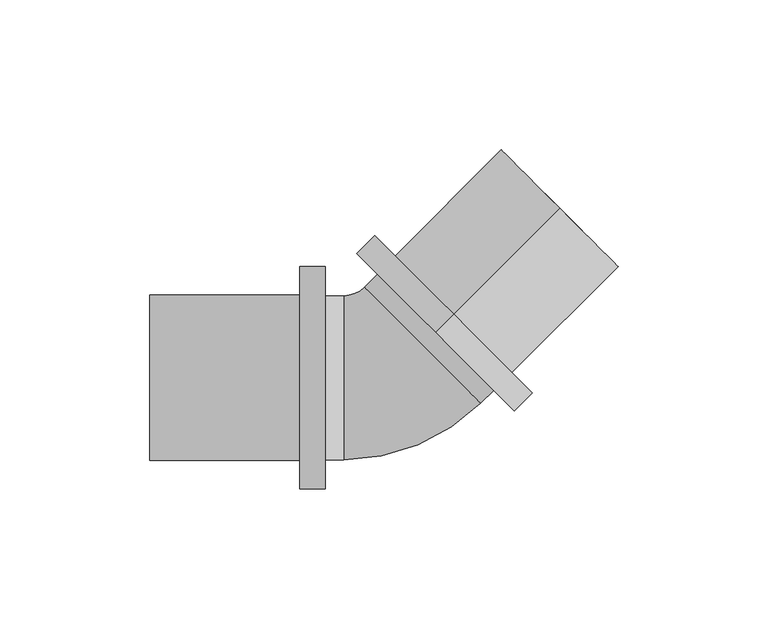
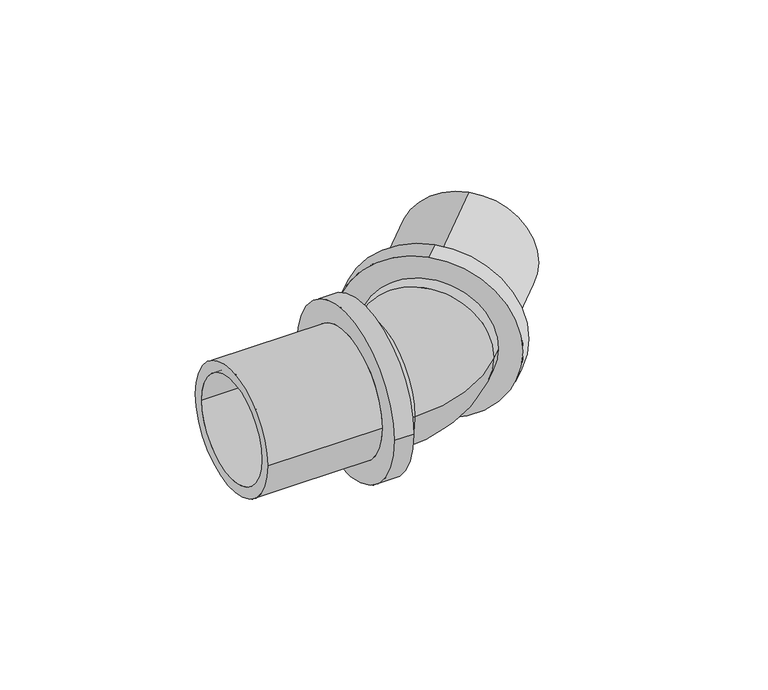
"""IFC4 building model written with IfcOpenShell, lengths in millimetres: pipe fitting geometry, RAUTITAN_Corner_RX+ stabil : RTI RX+ stabil C DE."""

from ifc_helpers import new_model, si_unit, point, frame, origin, place, context, project, spatial, polyline, circle_curve, ellipse_curve, trimmed, source, transform, mapped, element, save
from ifc_brep_helpers import plane_surface, cylinder_surface, revolved_surface, advanced_brep


def pipe_fitting_b53712a9(model_context):
    return source(origin(), model_context, "Body", "AdvancedBrep", [
        advanced_brep(
        [(-21.5, 27.35, 0.0), (-21.5, -27.35, 0.0), (-21.5, 22.75, 0.0), (-21.5, -22.75, 0.0), (-15.4708766, -22.75, 0.0), (-15.4708766, 0.0, -22.75), (-15.4708766, 22.75, 0.0), (-15.4708766, 0.0, 22.75), (-15.4708766, -27.35, 0.0), (-15.4708766, 27.35, 0.0), (34.5421663, -4.1365747, 0.0), (-4.1365747, 34.5421663, 0.0), (31.2894751, -0.8838835, 0.0), (-0.8838835, 31.2894751, 0.0), (-5.1471175, 27.026241, 0.0), (10.9395617, 10.9395617, -22.75), (27.026241, -5.1471175, 0.0), (10.9395617, 10.9395617, 22.75), (-8.3998087, 30.2789322, 0.0), (30.2789322, -8.3998087, 0.0)],
        [
            (0, 1, circle_curve(frame((-21.5, 0.0, 0.0), z_axis=(-1.0, 0.0, 0.0), x_axis=(0.0, -1.0, 0.0)), 27.35)),
            (1, 0, circle_curve(frame((-21.5, 0.0, 0.0), z_axis=(-1.0, 0.0, 0.0), x_axis=(0.0, -1.0, 0.0)), 27.35)),
            (2, 3, circle_curve(frame((-21.5, 0.0, 0.0), z_axis=(1.0, 0.0, 0.0), x_axis=(0.0, -1.0, 0.0)), 22.75)),
            (3, 2, circle_curve(frame((-21.5, 0.0, 0.0), z_axis=(1.0, 0.0, 0.0), x_axis=(0.0, -1.0, 0.0)), 22.75)),
            (3, 4),
            (4, 5, circle_curve(frame((-15.4708766, 0.0, 0.0), z_axis=(1.0, 0.0, 0.0), x_axis=(0.0, -1.0, 0.0)), 22.75)),
            (5, 6, circle_curve(frame((-15.4708766, 0.0, 0.0), z_axis=(1.0, 0.0, 0.0), x_axis=(0.0, -1.0, 0.0)), 22.75)),
            (6, 2),
            (6, 7, circle_curve(frame((-15.4708766, 0.0, 0.0), z_axis=(1.0, 0.0, 0.0), x_axis=(0.0, -1.0, 0.0)), 22.75)),
            (7, 4, circle_curve(frame((-15.4708766, 0.0, 0.0), z_axis=(1.0, 0.0, 0.0), x_axis=(0.0, -1.0, 0.0)), 22.75)),
            (1, 8),
            (8, 9, circle_curve(frame((-15.4708766, 0.0, 0.0), z_axis=(-1.0, 0.0, 0.0), x_axis=(0.0, -1.0, 0.0)), 27.35)),
            (9, 0),
            (9, 8, circle_curve(frame((-15.4708766, 0.0, 0.0), z_axis=(-1.0, 0.0, 0.0), x_axis=(0.0, -1.0, 0.0)), 27.35)),
            (10, 11, circle_curve(frame((15.2027958, 15.2027958, 0.0), z_axis=(0.7071067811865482, 0.7071067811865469, 0.0), x_axis=(-0.7071067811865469, 0.7071067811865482, 0.0)), 27.35)),
            (11, 10, circle_curve(frame((15.2027958, 15.2027958, 0.0), z_axis=(0.7071067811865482, 0.7071067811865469, 0.0), x_axis=(-0.7071067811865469, 0.7071067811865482, 0.0)), 27.35)),
            (12, 13, circle_curve(frame((15.2027958, 15.2027958, 0.0), z_axis=(-0.7071067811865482, -0.7071067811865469, 0.0), x_axis=(-0.7071067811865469, 0.7071067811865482, 0.0)), 22.75)),
            (13, 12, circle_curve(frame((15.2027958, 15.2027958, 0.0), z_axis=(-0.7071067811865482, -0.7071067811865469, 0.0), x_axis=(-0.7071067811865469, 0.7071067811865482, 0.0)), 22.75)),
            (13, 14),
            (14, 15, circle_curve(frame((10.9395617, 10.9395617, 0.0), z_axis=(-0.7071067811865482, -0.7071067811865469, 0.0), x_axis=(-0.7071067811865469, 0.7071067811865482, 0.0)), 22.75)),
            (15, 16, circle_curve(frame((10.9395617, 10.9395617, 0.0), z_axis=(-0.7071067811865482, -0.7071067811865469, 0.0), x_axis=(-0.7071067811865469, 0.7071067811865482, 0.0)), 22.75)),
            (16, 12),
            (16, 17, circle_curve(frame((10.9395617, 10.9395617, 0.0), z_axis=(-0.7071067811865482, -0.7071067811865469, 0.0), x_axis=(-0.7071067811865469, 0.7071067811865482, 0.0)), 22.75)),
            (17, 14, circle_curve(frame((10.9395617, 10.9395617, 0.0), z_axis=(-0.7071067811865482, -0.7071067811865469, 0.0), x_axis=(-0.7071067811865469, 0.7071067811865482, 0.0)), 22.75)),
            (11, 18),
            (18, 19, circle_curve(frame((10.9395617, 10.9395617, 0.0), z_axis=(0.7071067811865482, 0.7071067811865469, 0.0), x_axis=(-0.7071067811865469, 0.7071067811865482, 0.0)), 27.35)),
            (19, 10),
            (19, 18, circle_curve(frame((10.9395617, 10.9395617, 0.0), z_axis=(0.7071067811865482, 0.7071067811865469, 0.0), x_axis=(-0.7071067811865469, 0.7071067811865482, 0.0)), 27.35)),
            (14, 6, circle_curve(frame((-15.4708766, 37.35, 0.0), z_axis=(0.0, 0.0, -1.0), x_axis=(0.0, -1.0, 0.0)), 14.6)),
            (4, 16, circle_curve(frame((-15.4708766, 37.35, 0.0), z_axis=(0.0, 0.0, 1.0), x_axis=(0.0, -1.0, 0.0)), 60.1)),
            (18, 9, circle_curve(frame((-15.4708766, 37.35, 0.0), z_axis=(0.0, 0.0, -1.0), x_axis=(0.0, -1.0, 0.0)), 10.0)),
            (8, 19, circle_curve(frame((-15.4708766, 37.35, 0.0), z_axis=(0.0, 0.0, 1.0), x_axis=(0.0, -1.0, 0.0)), 64.7)),
        ],
        [
            plane_surface(frame((-21.5, 0.0, 0.0), z_axis=(-1.0, 0.0, 0.0), x_axis=(0.0, 0.0, 1.0))),
            revolved_surface(polyline([(-21.5, -22.75, 0.0), (-15.4708766, -22.75, 0.0)]), (-15.4708766, 0.0, 0.0), (-1.0, 0.0, 0.0)),
            cylinder_surface(frame((-15.4708766, 0.0, 0.0), z_axis=(1.0, 0.0, 0.0), x_axis=(0.0, -1.0, 0.0)), 27.35),
            plane_surface(frame((15.2027958, 15.2027958, 0.0), z_axis=(0.7071067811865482, 0.7071067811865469, 0.0), x_axis=(0.0, 0.0, 1.0))),
            revolved_surface(polyline([(-0.8838834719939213, 31.289475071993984, 0.0), (-5.14711757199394, 27.02624097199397, 0.0)]), (10.9395617, 10.9395617, 0.0), (0.7071067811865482, 0.7071067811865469, 0.0)),
            cylinder_surface(frame((10.9395617, 10.9395617, 0.0), z_axis=(-0.7071067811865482, -0.7071067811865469, 0.0), x_axis=(-0.7071067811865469, 0.7071067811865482, 0.0)), 27.35),
            revolved_surface(trimmed(ellipse_curve(frame((-15.4708766, 0.0, 0.0), z_axis=(1.0, 0.0, 0.0), x_axis=(0.0, 1.0, 0.0)), 22.75, 22.75), [point((-15.4708766, -22.75, 0.0))], [point((-15.4708766, 22.75, 0.0))], True, "CARTESIAN"), (-15.4708766, 37.35, 0.0), (0.0, 0.0, 1.0)),
            revolved_surface(trimmed(ellipse_curve(frame((-15.4708766, 0.0, 0.0), z_axis=(1.0, 0.0, 0.0), x_axis=(0.0, 1.0, 0.0)), 22.75, 22.75), [point((-15.4708766, 22.75, 0.0))], [point((-15.4708766, -22.75, 0.0))], True, "CARTESIAN"), (-15.4708766, 37.35, 0.0), (0.0, 0.0, 1.0)),
            revolved_surface(trimmed(ellipse_curve(frame((-15.4708766, 0.0, 0.0), z_axis=(-1.0, 0.0, 0.0), x_axis=(0.0, 1.0, 0.0)), 27.35, 27.35), [point((-15.4708766, -27.35, 0.0))], [point((-15.4708766, 27.35, 0.0))], True, "CARTESIAN"), (-15.4708766, 37.35, 0.0), (0.0, 0.0, 1.0)),
            revolved_surface(trimmed(ellipse_curve(frame((-15.4708766, 0.0, 0.0), z_axis=(-1.0, 0.0, 0.0), x_axis=(0.0, 1.0, 0.0)), 27.35, 27.35), [point((-15.4708766, 27.35, 0.0))], [point((-15.4708766, -27.35, 0.0))], True, "CARTESIAN"), (-15.4708766, 37.35, 0.0), (0.0, 0.0, 1.0)),
        ],
        [
            (0, [[1, 2], [3, 4]]),
            (1, [[-4, 5, 6, 7, 8]]),
            (1, [[-3, -8, 9, 10, -5]]),
            (2, [[-2, 11, 12, 13]]),
            (2, [[-1, -13, 14, -11]]),
            (3, [[15, 16], [17, 18]]),
            (4, [[-18, 19, 20, 21, 22]]),
            (4, [[-17, -22, 23, 24, -19]]),
            (5, [[-16, 25, 26, 27]]),
            (5, [[-15, -27, 28, -25]]),
            (6, [[29, -7, -6, 30, -21, -20]]),
            (7, [[-29, -24, -23, -30, -10, -9]]),
            (8, [[31, -12, 32, -26]]),
            (9, [[-31, -28, -32, -14]]),
        ],
    ),
        advanced_brep(
        [(-30.0, -37.05, 0.0), (-30.0, 37.05, 0.0), (-21.5, 37.05, 0.0), (-21.5, -37.05, 0.0), (-80.0, -27.55, 0.0), (-80.0, 27.55, 0.0), (-30.0, 27.55, 0.0), (-30.0, -27.55, 0.0), (-21.5, -22.75, 0.0), (-21.5, 22.75, 0.0), (-80.0, 22.75, 0.0), (-80.0, -22.75, 0.0)],
        [
            (0, 1, circle_curve(frame((-30.0, 0.0, 0.0), z_axis=(1.0, 0.0, 0.0), x_axis=(0.0, 1.0, 0.0)), 37.05)),
            (1, 2),
            (2, 3, circle_curve(frame((-21.5, 0.0, 0.0), z_axis=(-1.0, 0.0, 0.0), x_axis=(0.0, 1.0, 0.0)), 37.05)),
            (3, 0),
            (4, 5, circle_curve(frame((-80.0, 0.0, 0.0), z_axis=(1.0, 0.0, 0.0), x_axis=(0.0, 1.0, 0.0)), 27.55)),
            (5, 6),
            (6, 7, circle_curve(frame((-30.0, 0.0, 0.0), z_axis=(-1.0, 0.0, 0.0), x_axis=(0.0, 1.0, 0.0)), 27.55)),
            (7, 4),
            (8, 9, circle_curve(frame((-21.5, 0.0, 0.0), z_axis=(1.0, 0.0, 0.0), x_axis=(0.0, 1.0, 0.0)), 22.75)),
            (9, 10),
            (10, 11, circle_curve(frame((-80.0, 0.0, 0.0), z_axis=(-1.0, 0.0, 0.0), x_axis=(0.0, 1.0, 0.0)), 22.75)),
            (11, 8),
            (1, 0, circle_curve(frame((-30.0, 0.0, 0.0), z_axis=(1.0, 0.0, 0.0), x_axis=(0.0, -1.0, 0.0)), 37.05)),
            (3, 2, circle_curve(frame((-21.5, 0.0, 0.0), z_axis=(-1.0, 0.0, 0.0), x_axis=(0.0, -1.0, 0.0)), 37.05)),
            (6, 7, circle_curve(frame((-30.0, 0.0, 0.0), z_axis=(1.0, 0.0, 0.0), x_axis=(0.0, -1.0, 0.0)), 27.55)),
            (5, 4, circle_curve(frame((-80.0, 0.0, 0.0), z_axis=(1.0, 0.0, 0.0), x_axis=(0.0, -1.0, 0.0)), 27.55)),
            (10, 11, circle_curve(frame((-80.0, 0.0, 0.0), z_axis=(1.0, 0.0, 0.0), x_axis=(0.0, -1.0, 0.0)), 22.75)),
            (9, 8, circle_curve(frame((-21.5, 0.0, 0.0), z_axis=(1.0, 0.0, 0.0), x_axis=(0.0, -1.0, 0.0)), 22.75)),
        ],
        [
            cylinder_surface(frame((-21.5, 0.0, 0.0), z_axis=(-1.0, 0.0, 0.0), x_axis=(0.0, 1.0, 0.0)), 37.05),
            cylinder_surface(frame((-21.5, 0.0, 0.0), z_axis=(-1.0, 0.0, 0.0), x_axis=(0.0, 1.0, 0.0)), 27.55),
            revolved_surface(polyline([(-80.0, 22.75, 0.0), (-21.5, 22.75, 0.0)]), (-21.5, 0.0, 0.0), (-1.0, 0.0, 0.0)),
            cylinder_surface(frame((-21.5, 0.0, 0.0), z_axis=(-1.0, 0.0, 0.0), x_axis=(0.0, -1.0, 0.0)), 37.05),
            plane_surface(frame((-30.0, 0.0, 0.0), z_axis=(-1.0, 0.0, 0.0), x_axis=(0.0, -1.0, 0.0))),
            cylinder_surface(frame((-21.5, 0.0, 0.0), z_axis=(-1.0, 0.0, 0.0), x_axis=(0.0, -1.0, 0.0)), 27.55),
            plane_surface(frame((-80.0, 0.0, 0.0), z_axis=(-1.0, 0.0, 0.0), x_axis=(0.0, -1.0, 0.0))),
            revolved_surface(polyline([(-80.0, -22.75, 0.0), (-21.5, -22.75, 0.0)]), (-21.5, 0.0, 0.0), (-1.0, 0.0, 0.0)),
            plane_surface(frame((-21.5, 0.0, 0.0), z_axis=(1.0, 0.0, 0.0), x_axis=(0.0, -1.0, 0.0))),
        ],
        [
            (0, [[1, 2, 3, 4]]),
            (1, [[5, 6, 7, 8]]),
            (2, [[9, 10, 11, 12]]),
            (3, [[13, -4, 14, -2]]),
            (4, [[-13, -1], [15, -7]]),
            (5, [[16, -8, -15, -6]]),
            (6, [[-16, -5], [17, -11]]),
            (7, [[18, -12, -17, -10]]),
            (8, [[-14, -3], [-18, -9]]),
        ],
    ),
        advanced_brep(
        [(21.2132034, 21.2132034, 37.4749044), (21.2132034, 21.2132034, -36.6250956), (15.2027958, 15.2027958, -36.6250956), (15.2027958, 15.2027958, 37.4749044), (56.5685425, 56.5685425, 27.9749044), (56.5685425, 56.5685425, -27.1250956), (21.2132034, 21.2132034, -27.1250956), (21.2132034, 21.2132034, 27.9749044), (15.2027958, 15.2027958, 23.1749044), (15.2027958, 15.2027958, -22.3250956), (56.5685425, 56.5685425, -22.3250956), (56.5685425, 56.5685425, 23.1749044)],
        [
            (0, 1, circle_curve(frame((21.2132034, 21.2132034, 0.4249044), z_axis=(-0.707106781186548, -0.707106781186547, 0.0), x_axis=(0.0, 0.0, -1.0)), 37.05)),
            (1, 2),
            (2, 3, circle_curve(frame((15.2027958, 15.2027958, 0.4249044), z_axis=(0.707106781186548, 0.707106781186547, 0.0), x_axis=(0.0, 0.0, -1.0)), 37.05)),
            (3, 0),
            (4, 5, circle_curve(frame((56.5685425, 56.5685425, 0.4249044), z_axis=(-0.707106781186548, -0.707106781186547, 0.0), x_axis=(0.0, 0.0, -1.0)), 27.55)),
            (5, 6),
            (6, 7, circle_curve(frame((21.2132034, 21.2132034, 0.4249044), z_axis=(0.707106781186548, 0.707106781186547, 0.0), x_axis=(0.0, 0.0, -1.0)), 27.55)),
            (7, 4),
            (8, 9, circle_curve(frame((15.2027958, 15.2027958, 0.4249044), z_axis=(-0.707106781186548, -0.707106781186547, 0.0), x_axis=(0.0, 0.0, -1.0)), 22.75)),
            (9, 10),
            (10, 11, circle_curve(frame((56.5685425, 56.5685425, 0.4249044), z_axis=(0.707106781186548, 0.707106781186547, 0.0), x_axis=(0.0, 0.0, -1.0)), 22.75)),
            (11, 8),
            (1, 0, circle_curve(frame((21.2132034, 21.2132034, 0.4249044), z_axis=(-0.707106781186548, -0.707106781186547, 0.0), x_axis=(0.0, 0.0, 1.0)), 37.05)),
            (3, 2, circle_curve(frame((15.2027958, 15.2027958, 0.4249044), z_axis=(0.707106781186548, 0.707106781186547, 0.0), x_axis=(0.0, 0.0, 1.0)), 37.05)),
            (6, 7, circle_curve(frame((21.2132034, 21.2132034, 0.4249044), z_axis=(-0.707106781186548, -0.707106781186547, 0.0), x_axis=(0.0, 0.0, 1.0)), 27.55)),
            (5, 4, circle_curve(frame((56.5685425, 56.5685425, 0.4249044), z_axis=(-0.707106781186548, -0.707106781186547, 0.0), x_axis=(0.0, 0.0, 1.0)), 27.55)),
            (10, 11, circle_curve(frame((56.5685425, 56.5685425, 0.4249044), z_axis=(-0.707106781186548, -0.707106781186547, 0.0), x_axis=(0.0, 0.0, 1.0)), 22.75)),
            (9, 8, circle_curve(frame((15.2027958, 15.2027958, 0.4249044), z_axis=(-0.707106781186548, -0.707106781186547, 0.0), x_axis=(0.0, 0.0, 1.0)), 22.75)),
        ],
        [
            cylinder_surface(frame((15.2027958, 15.2027958, 0.4249044), z_axis=(0.707106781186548, 0.707106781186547, 0.0), x_axis=(0.0, 0.0, -1.0)), 37.05),
            cylinder_surface(frame((15.2027958, 15.2027958, 0.4249044), z_axis=(0.707106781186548, 0.707106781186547, 0.0), x_axis=(0.0, 0.0, -1.0)), 27.55),
            revolved_surface(polyline([(56.568542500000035, 56.56854249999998, -22.3250956), (15.2027958, 15.2027958, -22.3250956)]), (15.2027958, 15.2027958, 0.4249044), (0.707106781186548, 0.707106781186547, 0.0)),
            cylinder_surface(frame((15.2027958, 15.2027958, 0.4249044), z_axis=(0.707106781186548, 0.707106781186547, 0.0), x_axis=(0.0, 0.0, 1.0)), 37.05),
            plane_surface(frame((21.2132034, 21.2132034, 0.4249044), z_axis=(0.707106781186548, 0.707106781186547, 0.0), x_axis=(0.0, 0.0, 1.0))),
            cylinder_surface(frame((15.2027958, 15.2027958, 0.4249044), z_axis=(0.707106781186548, 0.707106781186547, 0.0), x_axis=(0.0, 0.0, 1.0)), 27.55),
            plane_surface(frame((56.5685425, 56.5685425, 0.4249044), z_axis=(0.707106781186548, 0.707106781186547, 0.0), x_axis=(0.0, 0.0, 1.0))),
            revolved_surface(polyline([(56.568542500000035, 56.56854249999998, 23.1749044), (15.2027958, 15.2027958, 23.1749044)]), (15.2027958, 15.2027958, 0.4249044), (0.707106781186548, 0.707106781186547, 0.0)),
            plane_surface(frame((15.2027958, 15.2027958, 0.4249044), z_axis=(-0.707106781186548, -0.707106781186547, 0.0), x_axis=(0.0, 0.0, 1.0))),
        ],
        [
            (0, [[1, 2, 3, 4]]),
            (1, [[5, 6, 7, 8]]),
            (2, [[9, 10, 11, 12]]),
            (3, [[13, -4, 14, -2]]),
            (4, [[-13, -1], [15, -7]]),
            (5, [[16, -8, -15, -6]]),
            (6, [[-16, -5], [17, -11]]),
            (7, [[18, -12, -17, -10]]),
            (8, [[-14, -3], [-18, -9]]),
        ],
    ),
    ])


if __name__ == "__main__":
    model = new_model("IFC4")
    model_context = context("Model", 3, world=origin())
    ifc_project = project(units=[si_unit("LENGTHUNIT", "METRE", prefix="MILLI")], contexts=[model_context])
    site = spatial("IfcSite", under=ifc_project)
    building = spatial("IfcBuilding", under=site)
    placement = place(None, origin())
    pipe_fitting_shape = pipe_fitting_b53712a9(model_context)
    element("IfcPipeFitting", 1, ObjectType="RAUTITAN_Corner_RX+ stabil : RTI RX+ stabil C DE", at=placement, inside=building, context=model_context, shape_type="MappedRepresentation", body=[
        mapped(pipe_fitting_shape, transform((0.0, 0.0, 0.0), x_axis=(1.0, 0.0, 0.0), y_axis=(0.0, 1.0, 0.0), z_axis=(0.0, 0.0, 1.0))),
    ])
    save(model, "model.ifc")
